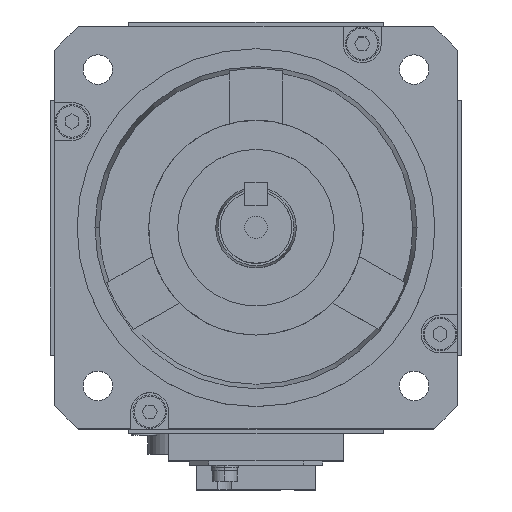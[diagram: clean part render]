
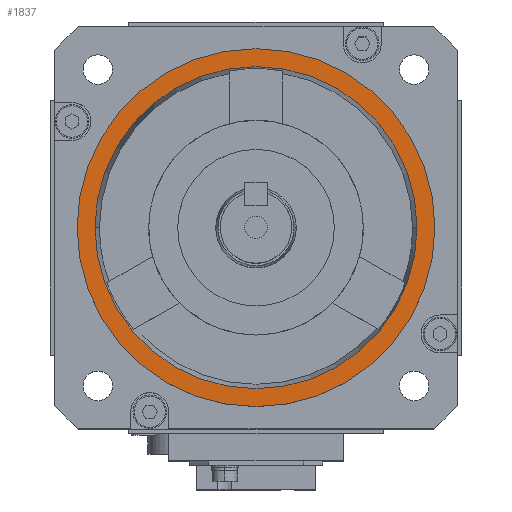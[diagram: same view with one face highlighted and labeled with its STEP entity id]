
A CAD part, top view. The second image highlights one B-rep face of the part: STEP entity #1837.
In plain terms, the highlighted planar face has unit normal (0, 0, 1).
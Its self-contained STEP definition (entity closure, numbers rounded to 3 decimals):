
#527 = DIRECTION ( 'NONE',  ( 1., 0., 0. ) ) ;
#528 = DIRECTION ( 'NONE',  ( 0., 0., 1. ) ) ;
#529 = CARTESIAN_POINT ( 'NONE',  ( 0., 0., 5. ) ) ;
#531 = AXIS2_PLACEMENT_3D ( 'NONE', #529, #528, #527 ) ;
#532 = CIRCLE ( 'NONE', #531, 36. ) ;
#1753 = EDGE_LOOP ( 'NONE', ( #1763, #16900 ) ) ;
#1763 = ORIENTED_EDGE ( 'NONE', *, *, #20151, .F. ) ;
#1783 = ORIENTED_EDGE ( 'NONE', *, *, #10588, .T. ) ;
#1796 = ORIENTED_EDGE ( 'NONE', *, *, #1803, .T. ) ;
#1803 = EDGE_CURVE ( 'NONE', #6752, #6748, #4141, .T. ) ;
#1815 = EDGE_LOOP ( 'NONE', ( #1796, #1783 ) ) ;
#1837 = ADVANCED_FACE ( 'NONE', ( #4206, #4205 ), #4210, .T. ) ;
#4137 = DIRECTION ( 'NONE',  ( 1., 0., 0. ) ) ;
#4138 = DIRECTION ( 'NONE',  ( 0., 0., 1. ) ) ;
#4139 = CARTESIAN_POINT ( 'NONE',  ( 0., 0., 5. ) ) ;
#4140 = AXIS2_PLACEMENT_3D ( 'NONE', #4139, #4138, #4137 ) ;
#4141 = CIRCLE ( 'NONE', #4140, 40. ) ;
#4201 = DIRECTION ( 'NONE',  ( 1., 0., 0. ) ) ;
#4202 = DIRECTION ( 'NONE',  ( 0., 0., 1. ) ) ;
#4203 = CARTESIAN_POINT ( 'NONE',  ( 0., 0., 5. ) ) ;
#4204 = AXIS2_PLACEMENT_3D ( 'NONE', #4203, #4202, #4201 ) ;
#4205 = FACE_BOUND ( 'NONE', #1753, .T. ) ;
#4206 = FACE_OUTER_BOUND ( 'NONE', #1815, .T. ) ;
#4210 = PLANE ( 'NONE',  #4204 ) ;
#6374 = CARTESIAN_POINT ( 'NONE',  ( 40., 0., 5. ) ) ;
#6441 = CARTESIAN_POINT ( 'NONE',  ( -40., 0., 5. ) ) ;
#6748 = VERTEX_POINT ( 'NONE', #6374 ) ;
#6752 = VERTEX_POINT ( 'NONE', #6441 ) ;
#10588 = EDGE_CURVE ( 'NONE', #6748, #6752, #16329, .T. ) ;
#16325 = DIRECTION ( 'NONE',  ( 1., 0., 0. ) ) ;
#16326 = DIRECTION ( 'NONE',  ( 0., 0., 1. ) ) ;
#16327 = CARTESIAN_POINT ( 'NONE',  ( 0., 0., 5. ) ) ;
#16328 = AXIS2_PLACEMENT_3D ( 'NONE', #16327, #16326, #16325 ) ;
#16329 = CIRCLE ( 'NONE', #16328, 40. ) ;
#16900 = ORIENTED_EDGE ( 'NONE', *, *, #19690, .F. ) ;
#18282 = CARTESIAN_POINT ( 'NONE',  ( 36., 0., 5. ) ) ;
#18313 = DIRECTION ( 'NONE',  ( 1., 0., 0. ) ) ;
#18314 = DIRECTION ( 'NONE',  ( 0., 0., 1. ) ) ;
#18315 = CARTESIAN_POINT ( 'NONE',  ( 0., 0., 5. ) ) ;
#18316 = AXIS2_PLACEMENT_3D ( 'NONE', #18315, #18314, #18313 ) ;
#18317 = CIRCLE ( 'NONE', #18316, 36. ) ;
#18353 = CARTESIAN_POINT ( 'NONE',  ( -36., 0., 5. ) ) ;
#19669 = VERTEX_POINT ( 'NONE', #18282 ) ;
#19690 = EDGE_CURVE ( 'NONE', #19700, #19669, #18317, .T. ) ;
#19700 = VERTEX_POINT ( 'NONE', #18353 ) ;
#20151 = EDGE_CURVE ( 'NONE', #19669, #19700, #532, .T. ) ;
